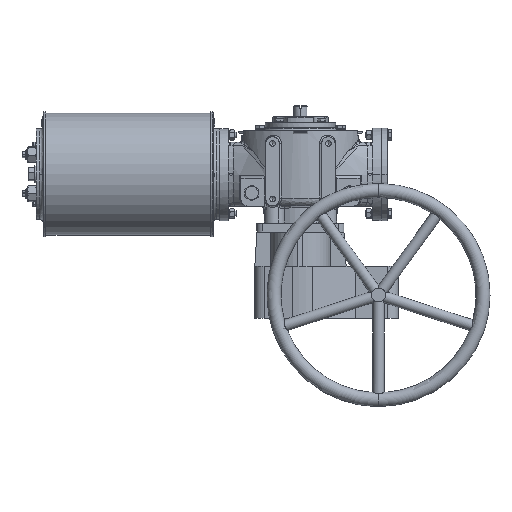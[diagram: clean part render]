
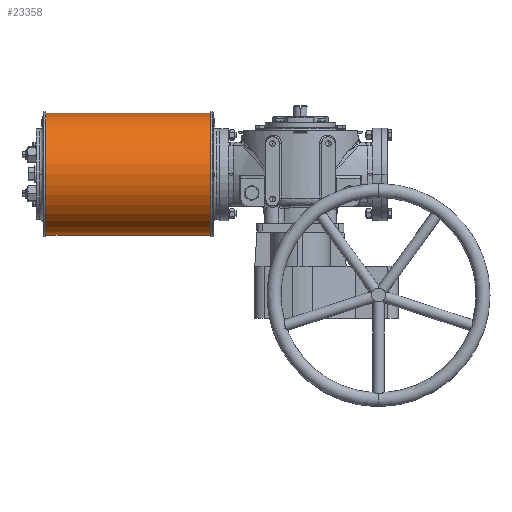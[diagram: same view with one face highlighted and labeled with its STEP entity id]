
A CAD part, front view. The second image highlights one B-rep face of the part: STEP entity #23358.
In plain terms, the highlighted cylindrical face has radius 109.5 mm (diameter 219 mm), a partial arc.
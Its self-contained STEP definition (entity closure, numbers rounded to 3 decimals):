
#674 = ORIENTED_EDGE ( 'NONE', *, *, #57905, .T. ) ;
#3431 = FACE_OUTER_BOUND ( 'NONE', #78946, .T. ) ;
#7351 = VERTEX_POINT ( 'NONE', #42966 ) ;
#10162 = EDGE_CURVE ( 'NONE', #27441, #7351, #23375, .T. ) ;
#10327 = DIRECTION ( 'NONE',  ( -1., 0., 0. ) ) ;
#11064 = DIRECTION ( 'NONE',  ( 1., 0., 0. ) ) ;
#12441 = CARTESIAN_POINT ( 'NONE',  ( -456.5, 22.5, 167. ) ) ;
#14132 = AXIS2_PLACEMENT_3D ( 'NONE', #43405, #11064, #17026 ) ;
#17026 = DIRECTION ( 'NONE',  ( 0., 0., 1. ) ) ;
#17800 = CIRCLE ( 'NONE', #68072, 109.5 ) ;
#18905 = LINE ( 'NONE', #51234, #72498 ) ;
#22039 = VERTEX_POINT ( 'NONE', #67702 ) ;
#23358 = ADVANCED_FACE ( 'NONE', ( #3431 ), #29396, .T. ) ;
#23375 = LINE ( 'NONE', #48507, #84060 ) ;
#25398 = DIRECTION ( 'NONE',  ( 1., 0., 0. ) ) ;
#27441 = VERTEX_POINT ( 'NONE', #12441 ) ;
#27584 = VERTEX_POINT ( 'NONE', #75776 ) ;
#29396 = CYLINDRICAL_SURFACE ( 'NONE', #14132, 109.5 ) ;
#32446 = EDGE_CURVE ( 'NONE', #27441, #22039, #77368, .T. ) ;
#32645 = DIRECTION ( 'NONE',  ( 0., 0., 1. ) ) ;
#35231 = EDGE_CURVE ( 'NONE', #27584, #7351, #17800, .T. ) ;
#42966 = CARTESIAN_POINT ( 'NONE',  ( -161.5, 22.5, 167. ) ) ;
#43405 = CARTESIAN_POINT ( 'NONE',  ( -456.5, 22.5, 57.5 ) ) ;
#43601 = DIRECTION ( 'NONE',  ( 1., 0., 0. ) ) ;
#48507 = CARTESIAN_POINT ( 'NONE',  ( -456.5, 22.5, 167. ) ) ;
#51234 = CARTESIAN_POINT ( 'NONE',  ( -456.5, 22.5, -52. ) ) ;
#56471 = ORIENTED_EDGE ( 'NONE', *, *, #10162, .F. ) ;
#57905 = EDGE_CURVE ( 'NONE', #22039, #27584, #18905, .T. ) ;
#62249 = DIRECTION ( 'NONE',  ( 0., 0., 1. ) ) ;
#62396 = AXIS2_PLACEMENT_3D ( 'NONE', #83718, #25398, #32645 ) ;
#67702 = CARTESIAN_POINT ( 'NONE',  ( -456.5, 22.5, -52. ) ) ;
#68072 = AXIS2_PLACEMENT_3D ( 'NONE', #68631, #10327, #62249 ) ;
#68631 = CARTESIAN_POINT ( 'NONE',  ( -161.5, 22.5, 57.5 ) ) ;
#68888 = DIRECTION ( 'NONE',  ( 1., 0., 0. ) ) ;
#71140 = ORIENTED_EDGE ( 'NONE', *, *, #32446, .T. ) ;
#72498 = VECTOR ( 'NONE', #43601, 1000. ) ;
#75776 = CARTESIAN_POINT ( 'NONE',  ( -161.5, 22.5, -52. ) ) ;
#77368 = CIRCLE ( 'NONE', #62396, 109.5 ) ;
#78946 = EDGE_LOOP ( 'NONE', ( #71140, #674, #80055, #56471 ) ) ;
#80055 = ORIENTED_EDGE ( 'NONE', *, *, #35231, .T. ) ;
#83718 = CARTESIAN_POINT ( 'NONE',  ( -456.5, 22.5, 57.5 ) ) ;
#84060 = VECTOR ( 'NONE', #68888, 1000. ) ;
